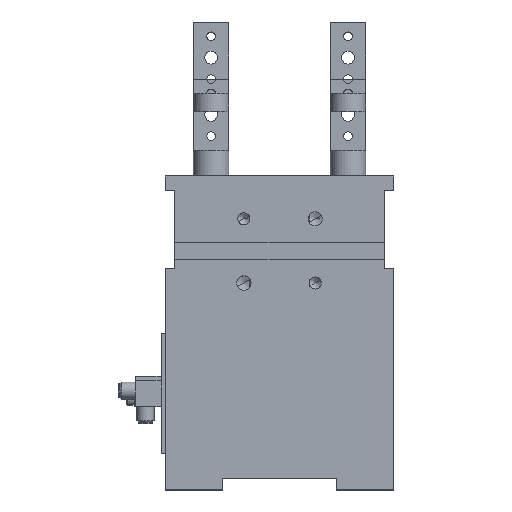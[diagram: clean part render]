
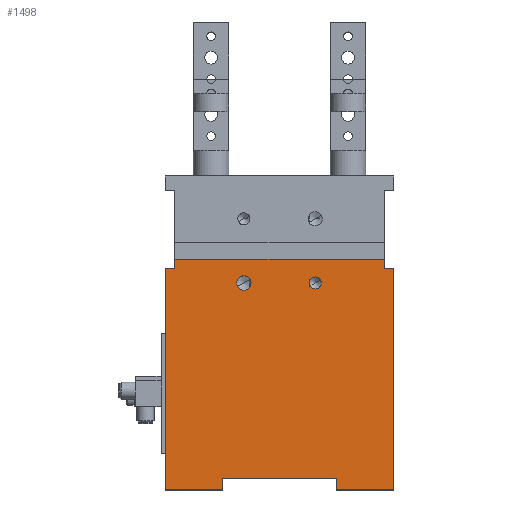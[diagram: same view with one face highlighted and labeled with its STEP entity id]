
A CAD part, top view. The second image highlights one B-rep face of the part: STEP entity #1498.
In plain terms, the highlighted planar face has unit normal (0, 0, 1).
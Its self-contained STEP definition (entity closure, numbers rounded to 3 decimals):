
#1378=AXIS2_PLACEMENT_3D('Plane Axis2P3D',#1375,#1376,#1377) ;
#1464=AXIS2_PLACEMENT_3D('Circle Axis2P3D',#1462,#1463,$) ;
#1473=AXIS2_PLACEMENT_3D('Circle Axis2P3D',#1471,#1472,$) ;
#1482=AXIS2_PLACEMENT_3D('Circle Axis2P3D',#1480,#1481,$) ;
#1491=AXIS2_PLACEMENT_3D('Circle Axis2P3D',#1489,#1490,$) ;
#836=CARTESIAN_POINT('Vertex',(-80.,-220.,32.)) ;
#839=CARTESIAN_POINT('Line Origine',(-80.,-142.5,32.)) ;
#843=CARTESIAN_POINT('Vertex',(-80.,-65.,32.)) ;
#1353=CARTESIAN_POINT('Vertex',(-73.5,-65.,32.)) ;
#1356=CARTESIAN_POINT('Line Origine',(-76.75,-65.,32.)) ;
#1375=CARTESIAN_POINT('Axis2P3D Location',(-80.,-220.,32.)) ;
#1380=CARTESIAN_POINT('Line Origine',(0.,-58.5,32.)) ;
#1384=CARTESIAN_POINT('Vertex',(-73.5,-58.5,32.)) ;
#1386=CARTESIAN_POINT('Vertex',(73.5,-58.5,32.)) ;
#1389=CARTESIAN_POINT('Line Origine',(-73.5,-61.75,32.)) ;
#1394=CARTESIAN_POINT('Line Origine',(-60.,-220.,32.)) ;
#1398=CARTESIAN_POINT('Vertex',(-40.,-220.,32.)) ;
#1401=CARTESIAN_POINT('Line Origine',(-40.,-216.,32.)) ;
#1405=CARTESIAN_POINT('Vertex',(-40.,-212.,32.)) ;
#1408=CARTESIAN_POINT('Line Origine',(0.,-212.,32.)) ;
#1412=CARTESIAN_POINT('Vertex',(40.,-212.,32.)) ;
#1415=CARTESIAN_POINT('Line Origine',(40.,-216.,32.)) ;
#1419=CARTESIAN_POINT('Vertex',(40.,-220.,32.)) ;
#1422=CARTESIAN_POINT('Line Origine',(60.,-220.,32.)) ;
#1426=CARTESIAN_POINT('Vertex',(80.,-220.,32.)) ;
#1429=CARTESIAN_POINT('Line Origine',(80.,-142.5,32.)) ;
#1433=CARTESIAN_POINT('Vertex',(80.,-65.,32.)) ;
#1436=CARTESIAN_POINT('Line Origine',(76.75,-65.,32.)) ;
#1440=CARTESIAN_POINT('Vertex',(73.5,-65.,32.)) ;
#1443=CARTESIAN_POINT('Line Origine',(73.5,-61.75,32.)) ;
#1462=CARTESIAN_POINT('Axis2P3D Location',(-25.,-75.,32.)) ;
#1466=CARTESIAN_POINT('Vertex',(-25.,-70.,32.)) ;
#1468=CARTESIAN_POINT('Vertex',(-25.,-80.,32.)) ;
#1471=CARTESIAN_POINT('Axis2P3D Location',(-25.,-75.,32.)) ;
#1480=CARTESIAN_POINT('Axis2P3D Location',(25.,-75.,32.)) ;
#1484=CARTESIAN_POINT('Vertex',(25.,-70.75,32.)) ;
#1486=CARTESIAN_POINT('Vertex',(25.,-79.25,32.)) ;
#1489=CARTESIAN_POINT('Axis2P3D Location',(25.,-75.,32.)) ;
#840=DIRECTION('Vector Direction',(0.,1.,0.)) ;
#1357=DIRECTION('Vector Direction',(1.,0.,0.)) ;
#1376=DIRECTION('Axis2P3D Direction',(0.,0.,-1.)) ;
#1377=DIRECTION('Axis2P3D XDirection',(0.,1.,0.)) ;
#1381=DIRECTION('Vector Direction',(-1.,0.,0.)) ;
#1390=DIRECTION('Vector Direction',(0.,1.,0.)) ;
#1395=DIRECTION('Vector Direction',(1.,0.,0.)) ;
#1402=DIRECTION('Vector Direction',(0.,1.,0.)) ;
#1409=DIRECTION('Vector Direction',(1.,0.,0.)) ;
#1416=DIRECTION('Vector Direction',(0.,1.,0.)) ;
#1423=DIRECTION('Vector Direction',(1.,0.,0.)) ;
#1430=DIRECTION('Vector Direction',(0.,1.,0.)) ;
#1437=DIRECTION('Vector Direction',(1.,0.,0.)) ;
#1444=DIRECTION('Vector Direction',(0.,1.,0.)) ;
#1463=DIRECTION('Axis2P3D Direction',(0.,0.,-1.)) ;
#1472=DIRECTION('Axis2P3D Direction',(0.,0.,-1.)) ;
#1481=DIRECTION('Axis2P3D Direction',(0.,0.,-1.)) ;
#1490=DIRECTION('Axis2P3D Direction',(0.,0.,-1.)) ;
#841=VECTOR('Line Direction',#840,1.) ;
#1358=VECTOR('Line Direction',#1357,1.) ;
#1382=VECTOR('Line Direction',#1381,1.) ;
#1391=VECTOR('Line Direction',#1390,1.) ;
#1396=VECTOR('Line Direction',#1395,1.) ;
#1403=VECTOR('Line Direction',#1402,1.) ;
#1410=VECTOR('Line Direction',#1409,1.) ;
#1417=VECTOR('Line Direction',#1416,1.) ;
#1424=VECTOR('Line Direction',#1423,1.) ;
#1431=VECTOR('Line Direction',#1430,1.) ;
#1438=VECTOR('Line Direction',#1437,1.) ;
#1445=VECTOR('Line Direction',#1444,1.) ;
#1449=ORIENTED_EDGE('',*,*,#1388,.F.) ;
#1450=ORIENTED_EDGE('',*,*,#1393,.T.) ;
#1451=ORIENTED_EDGE('',*,*,#1360,.F.) ;
#1452=ORIENTED_EDGE('',*,*,#845,.T.) ;
#1453=ORIENTED_EDGE('',*,*,#1400,.T.) ;
#1454=ORIENTED_EDGE('',*,*,#1407,.F.) ;
#1455=ORIENTED_EDGE('',*,*,#1414,.T.) ;
#1456=ORIENTED_EDGE('',*,*,#1421,.T.) ;
#1457=ORIENTED_EDGE('',*,*,#1428,.T.) ;
#1458=ORIENTED_EDGE('',*,*,#1435,.F.) ;
#1459=ORIENTED_EDGE('',*,*,#1442,.T.) ;
#1460=ORIENTED_EDGE('',*,*,#1447,.F.) ;
#1477=ORIENTED_EDGE('',*,*,#1470,.T.) ;
#1478=ORIENTED_EDGE('',*,*,#1475,.T.) ;
#1495=ORIENTED_EDGE('',*,*,#1488,.T.) ;
#1496=ORIENTED_EDGE('',*,*,#1493,.T.) ;
#1479=FACE_BOUND('',#1476,.T.) ;
#1497=FACE_BOUND('',#1494,.T.) ;
#1498=ADVANCED_FACE('SZVD_50_A23_T12_TUENKERS',(#1461,#1479,#1497),#1379,.F.) ;
#1465=CIRCLE('generated circle',#1464,5.) ;
#1474=CIRCLE('generated circle',#1473,5.) ;
#1483=CIRCLE('generated circle',#1482,4.25) ;
#1492=CIRCLE('generated circle',#1491,4.25) ;
#845=EDGE_CURVE('',#844,#837,#842,.F.) ;
#1360=EDGE_CURVE('',#844,#1354,#1359,.T.) ;
#1388=EDGE_CURVE('',#1385,#1387,#1383,.F.) ;
#1393=EDGE_CURVE('',#1385,#1354,#1392,.F.) ;
#1400=EDGE_CURVE('',#837,#1399,#1397,.T.) ;
#1407=EDGE_CURVE('',#1406,#1399,#1404,.F.) ;
#1414=EDGE_CURVE('',#1406,#1413,#1411,.T.) ;
#1421=EDGE_CURVE('',#1413,#1420,#1418,.F.) ;
#1428=EDGE_CURVE('',#1420,#1427,#1425,.T.) ;
#1435=EDGE_CURVE('',#1434,#1427,#1432,.F.) ;
#1442=EDGE_CURVE('',#1434,#1441,#1439,.F.) ;
#1447=EDGE_CURVE('',#1387,#1441,#1446,.F.) ;
#1470=EDGE_CURVE('',#1467,#1469,#1465,.T.) ;
#1475=EDGE_CURVE('',#1469,#1467,#1474,.T.) ;
#1488=EDGE_CURVE('',#1485,#1487,#1483,.T.) ;
#1493=EDGE_CURVE('',#1487,#1485,#1492,.T.) ;
#1448=EDGE_LOOP('',(#1449,#1450,#1451,#1452,#1453,#1454,#1455,#1456,#1457,#1458,#1459,#1460)) ;
#1476=EDGE_LOOP('',(#1477,#1478)) ;
#1494=EDGE_LOOP('',(#1495,#1496)) ;
#1461=FACE_OUTER_BOUND('',#1448,.T.) ;
#842=LINE('Line',#839,#841) ;
#1359=LINE('Line',#1356,#1358) ;
#1383=LINE('Line',#1380,#1382) ;
#1392=LINE('Line',#1389,#1391) ;
#1397=LINE('Line',#1394,#1396) ;
#1404=LINE('Line',#1401,#1403) ;
#1411=LINE('Line',#1408,#1410) ;
#1418=LINE('Line',#1415,#1417) ;
#1425=LINE('Line',#1422,#1424) ;
#1432=LINE('Line',#1429,#1431) ;
#1439=LINE('Line',#1436,#1438) ;
#1446=LINE('Line',#1443,#1445) ;
#1379=PLANE('Plane',#1378) ;
#837=VERTEX_POINT('',#836) ;
#844=VERTEX_POINT('',#843) ;
#1354=VERTEX_POINT('',#1353) ;
#1385=VERTEX_POINT('',#1384) ;
#1387=VERTEX_POINT('',#1386) ;
#1399=VERTEX_POINT('',#1398) ;
#1406=VERTEX_POINT('',#1405) ;
#1413=VERTEX_POINT('',#1412) ;
#1420=VERTEX_POINT('',#1419) ;
#1427=VERTEX_POINT('',#1426) ;
#1434=VERTEX_POINT('',#1433) ;
#1441=VERTEX_POINT('',#1440) ;
#1467=VERTEX_POINT('',#1466) ;
#1469=VERTEX_POINT('',#1468) ;
#1485=VERTEX_POINT('',#1484) ;
#1487=VERTEX_POINT('',#1486) ;
